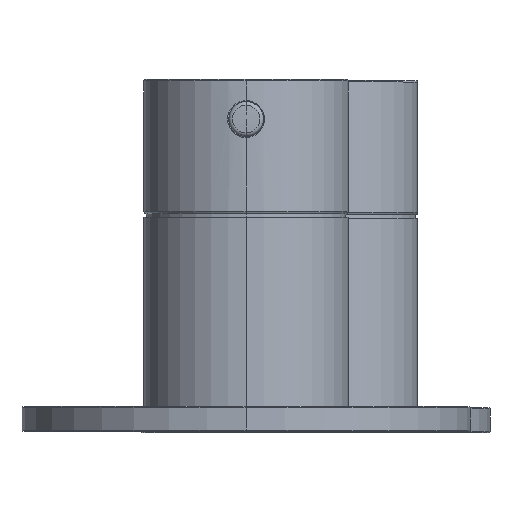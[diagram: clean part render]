
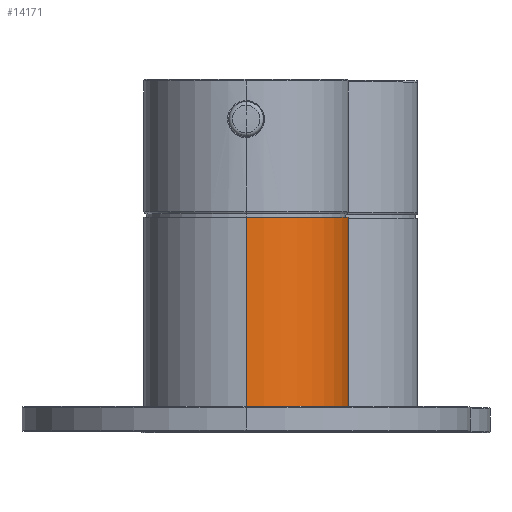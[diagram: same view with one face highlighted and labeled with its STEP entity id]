
A CAD part, top view. The second image highlights one B-rep face of the part: STEP entity #14171.
In plain terms, the highlighted cylindrical face has radius 20.5 mm (diameter 41 mm), a partial arc.
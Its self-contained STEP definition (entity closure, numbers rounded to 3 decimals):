
#10814=CARTESIAN_POINT('',(0.,0.,0.));
#10815=DIRECTION('',(0.,-1.,0.));
#10816=DIRECTION('',(1.,0.,0.));
#10817=AXIS2_PLACEMENT_3D('',#10814,#10815,#10816);
#10829=DIRECTION('',(0.,1.,0.));
#10830=VECTOR('',#10829,43.);
#10831=CARTESIAN_POINT('',(20.5,-43.,0.));
#10832=LINE('',#10831,#10830);
#10833=DIRECTION('',(0.,1.,0.));
#10834=VECTOR('',#10833,43.);
#10835=CARTESIAN_POINT('',(-20.5,-43.,0.));
#10836=LINE('',#10835,#10834);
#10842=CARTESIAN_POINT('',(0.,-43.,0.));
#10843=DIRECTION('',(0.,-1.,0.));
#10844=DIRECTION('',(1.,0.,0.));
#10845=AXIS2_PLACEMENT_3D('',#10842,#10843,#10844);
#11207=CARTESIAN_POINT('',(20.5,-43.,0.));
#11208=CARTESIAN_POINT('',(20.5,0.,0.));
#11209=VERTEX_POINT('',#11207);
#11210=VERTEX_POINT('',#11208);
#11211=CARTESIAN_POINT('',(-20.5,-43.,0.));
#11212=CARTESIAN_POINT('',(-20.5,0.,0.));
#11213=VERTEX_POINT('',#11211);
#11214=VERTEX_POINT('',#11212);
#14160=CARTESIAN_POINT('',(0.,2.15,0.));
#14161=DIRECTION('',(0.,-1.,0.));
#14162=DIRECTION('',(-1.,0.,0.));
#14163=AXIS2_PLACEMENT_3D('',#14160,#14161,#14162);
#14164=CYLINDRICAL_SURFACE('',#14163,20.5);
#14165=ORIENTED_EDGE('',*,*,#14151,.F.);
#14166=ORIENTED_EDGE('',*,*,#11944,.T.);
#14167=ORIENTED_EDGE('',*,*,#14154,.T.);
#14168=ORIENTED_EDGE('',*,*,#14136,.F.);
#14169=EDGE_LOOP('',(#14165,#14166,#14167,#14168));
#14170=FACE_OUTER_BOUND('',#14169,.F.);
#14171=ADVANCED_FACE('',(#14170),#14164,.T.);
#10818=CIRCLE('',#10817,20.5);
#10846=CIRCLE('',#10845,20.5);
#11944=EDGE_CURVE('',#11209,#11213,#10846,.T.);
#14136=EDGE_CURVE('',#11210,#11214,#10818,.T.);
#14151=EDGE_CURVE('',#11209,#11210,#10832,.T.);
#14154=EDGE_CURVE('',#11213,#11214,#10836,.T.);
